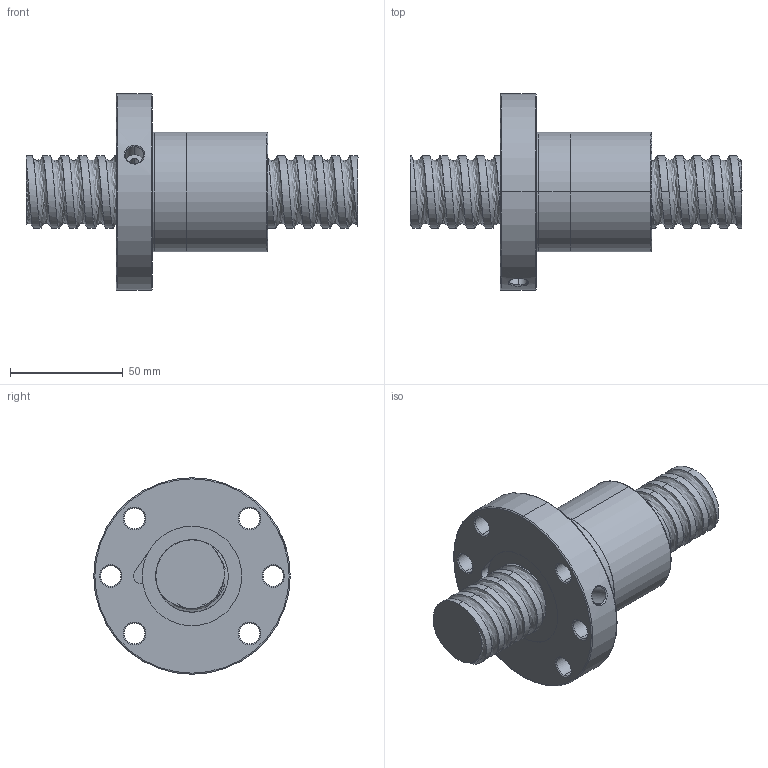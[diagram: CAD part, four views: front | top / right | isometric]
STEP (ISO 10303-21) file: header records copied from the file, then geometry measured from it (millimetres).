
FILE_DESCRIPTION (( 'STEP AP214' ), '1' );
FILE_NAME ('FSDC03208T5-D-A.STEP', '2010-06-25T11:44:40', ( 'XPAUTO' ), ( 'XPAUTO' ), 'SwSTEP 2.0', 'SolidWorks 2007', '' );
FILE_SCHEMA (( 'AUTOMOTIVE_DESIGN' ));
Length unit declared in the file: millimetre
Products named in the file (3): FSDC03208T5-D-A; FSDC03208T5-D-A.sldasm-Part-2_預設; FSDC03208T5-D-A.sldasm-Part-1_預設
Assembly tree (2 placements, depth 2):
  FSDC03208T5-D-A
    FSDC03208T5-D-A.sldasm-Part-1_預設
    FSDC03208T5-D-A.sldasm-Part-2_預設
Bounding box: 147 x 87 x 87 mm (x, y, z)
Volume: 252118.2 mm3; surface area: 51572.6 mm2
Topology: 2 solids, 2 shells, 126 faces, 316 edges, 199 vertices
Faces by surface type: cylinder 75, cone 24, plane 16, torus 6, bspline 5
Entity records: 26108 total; most frequent: CARTESIAN_POINT 23093, ORIENTED_EDGE 632, DIRECTION 584, EDGE_CURVE 316, AXIS2_PLACEMENT_3D 239, VERTEX_POINT 199, EDGE_LOOP 147, FACE_OUTER_BOUND 126
